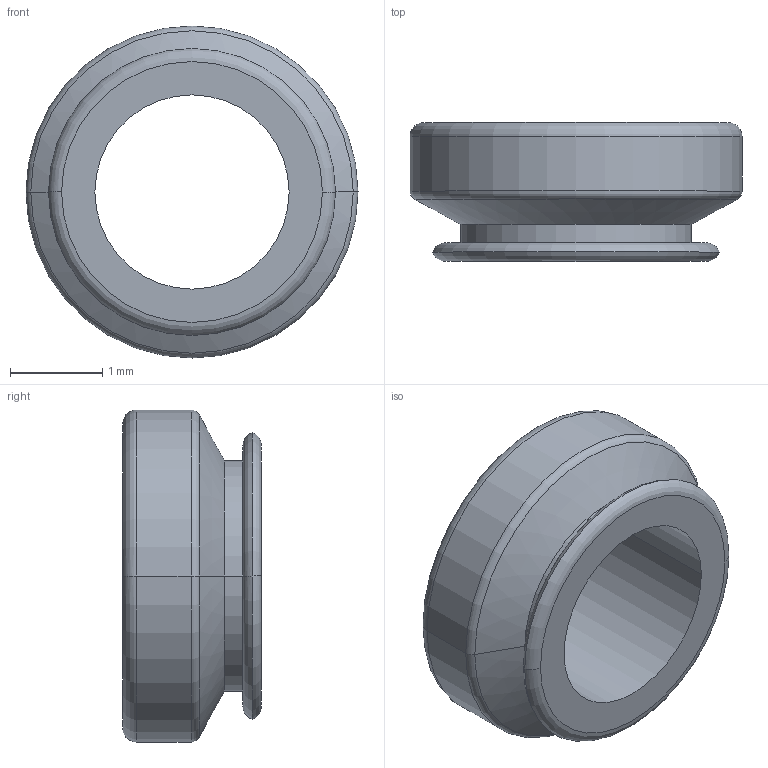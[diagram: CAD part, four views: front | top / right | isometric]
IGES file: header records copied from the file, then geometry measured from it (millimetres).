
Start section:  PTC IGES file: f20-36-15_prt.igs
Global section: file name: f20-36-15_prt.igs; native system: Pro/ENGINEER by Parametric Technology Corporation; preprocessor: 2000030; author: ECaille; organization: Unknown; date: 000803.091941; units: millimetre
Bounding box: 3.59 x 1.5 x 3.59 mm (x, y, z)
Surface area: 39.8 mm2 (no closed solid volume)
Topology: 0 solids, 0 shells, 19 faces, 106 edges, 125 vertices
Faces by surface type: revolution 16, bspline 3
